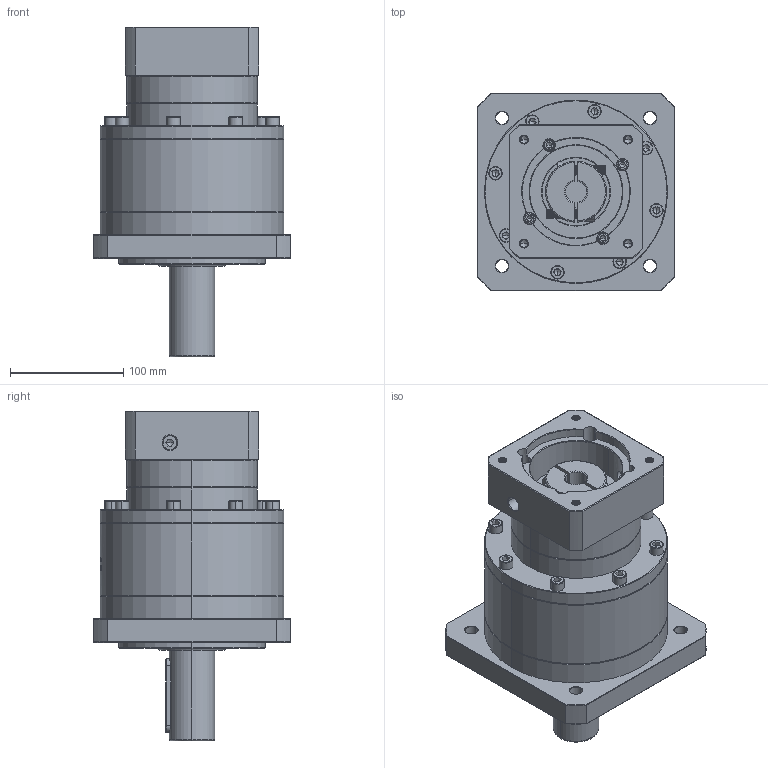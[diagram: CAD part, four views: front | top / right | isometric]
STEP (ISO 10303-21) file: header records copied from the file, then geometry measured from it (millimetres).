
FILE_DESCRIPTION (( 'STEP AP214' ), '1' );
FILE_NAME ('ZF160-D40-L2-19-95-130-M8.step', '2023-03-22T03:56:05', ( '' ), ( '' ), 'SwSTEP 2.0', 'SolidWorks 2016', '' );
FILE_SCHEMA (( 'AUTOMOTIVE_DESIGN' ));
Length unit declared in the file: millimetre
Products named in the file (1): ZF160-D40-L2-19-95-130-M8
Bounding box: 175 x 175 x 291.7 mm (x, y, z)
Volume: 3592770.6 mm3; surface area: 265869 mm2
Topology: 6 solids, 6 shells, 1864 faces, 4714 edges, 2972 vertices
Faces by surface type: plane 746, cylinder 487, cone 361, bspline 212, torus 58
Entity records: 99538 total; most frequent: CARTESIAN_POINT 36504, ORIENTED_EDGE 9320, DIRECTION 8185, EDGE_CURVE 4660, VERTEX_POINT 2972, AXIS2_PLACEMENT_3D 2841, VECTOR 2503, LINE 2503
